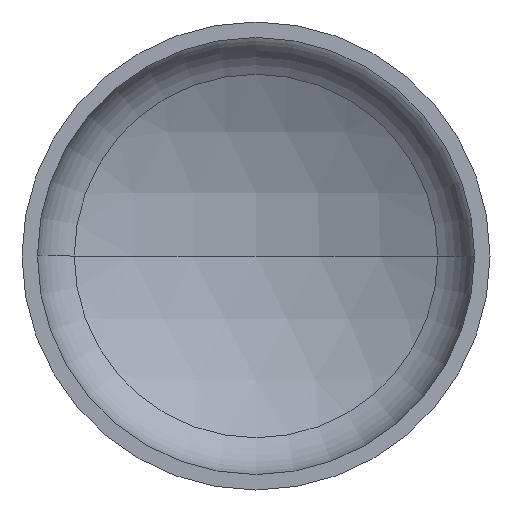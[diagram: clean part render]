
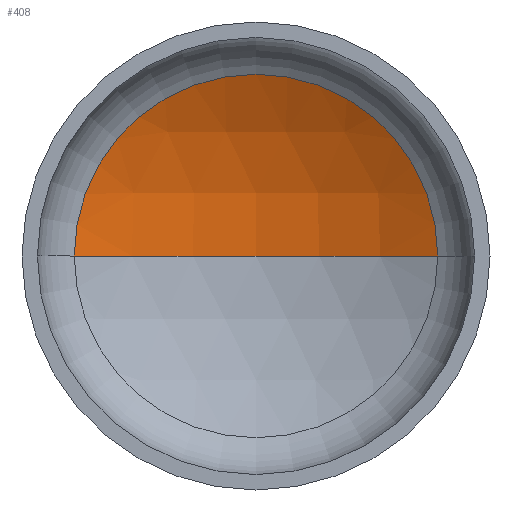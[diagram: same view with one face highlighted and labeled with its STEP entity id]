
A CAD part, front view. The second image highlights one B-rep face of the part: STEP entity #408.
In plain terms, the highlighted spherical face has radius 1360 mm.
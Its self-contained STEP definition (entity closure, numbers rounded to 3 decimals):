
#4 = ORIENTED_EDGE ( 'NONE', *, *, #83, .T. ) ;
#10 = CARTESIAN_POINT ( 'NONE',  ( 0., -841.688, 0. ) ) ;
#14 = DIRECTION ( 'NONE',  ( -1., 0., 0. ) ) ;
#26 = EDGE_LOOP ( 'NONE', ( #110, #81, #4 ) ) ;
#36 = AXIS2_PLACEMENT_3D ( 'NONE', #103, #99, #14 ) ;
#37 = AXIS2_PLACEMENT_3D ( 'NONE', #97, #301, #353 ) ;
#41 = AXIS2_PLACEMENT_3D ( 'NONE', #231, #233, #218 ) ;
#43 = VERTEX_POINT ( 'NONE', #354 ) ;
#55 = VERTEX_POINT ( 'NONE', #267 ) ;
#81 = ORIENTED_EDGE ( 'NONE', *, *, #86, .T. ) ;
#83 = EDGE_CURVE ( 'NONE', #43, #112, #307, .T. ) ;
#86 = EDGE_CURVE ( 'NONE', #55, #43, #361, .T. ) ;
#88 = EDGE_CURVE ( 'NONE', #55, #112, #188, .T. ) ;
#97 = CARTESIAN_POINT ( 'NONE',  ( 0., -841.688, 0. ) ) ;
#99 = DIRECTION ( 'NONE',  ( 0., 0., -1. ) ) ;
#103 = CARTESIAN_POINT ( 'NONE',  ( 0., -841.688, 0. ) ) ;
#110 = ORIENTED_EDGE ( 'NONE', *, *, #88, .F. ) ;
#112 = VERTEX_POINT ( 'NONE', #186 ) ;
#186 = CARTESIAN_POINT ( 'NONE',  ( -660.218, 347.308, 0. ) ) ;
#188 = CIRCLE ( 'NONE', #37, 1360. ) ;
#196 = SPHERICAL_SURFACE ( 'NONE', #205, 1360. ) ;
#202 = FACE_OUTER_BOUND ( 'NONE', #26, .T. ) ;
#205 = AXIS2_PLACEMENT_3D ( 'NONE', #10, #209, #278 ) ;
#209 = DIRECTION ( 'NONE',  ( 0., 0., -1. ) ) ;
#218 = DIRECTION ( 'NONE',  ( 1., 0., 0. ) ) ;
#231 = CARTESIAN_POINT ( 'NONE',  ( 0., 347.308, 0. ) ) ;
#233 = DIRECTION ( 'NONE',  ( 0., -1., 0. ) ) ;
#267 = CARTESIAN_POINT ( 'NONE',  ( 0., 518.312, 0. ) ) ;
#278 = DIRECTION ( 'NONE',  ( -1., 0., 0. ) ) ;
#301 = DIRECTION ( 'NONE',  ( 0., 0., 1. ) ) ;
#307 = CIRCLE ( 'NONE', #41, 660.218 ) ;
#353 = DIRECTION ( 'NONE',  ( 1., 0., 0. ) ) ;
#354 = CARTESIAN_POINT ( 'NONE',  ( 660.218, 347.308, 0. ) ) ;
#361 = CIRCLE ( 'NONE', #36, 1360. ) ;
#408 = ADVANCED_FACE ( 'NONE', ( #202 ), #196, .F. ) ;
